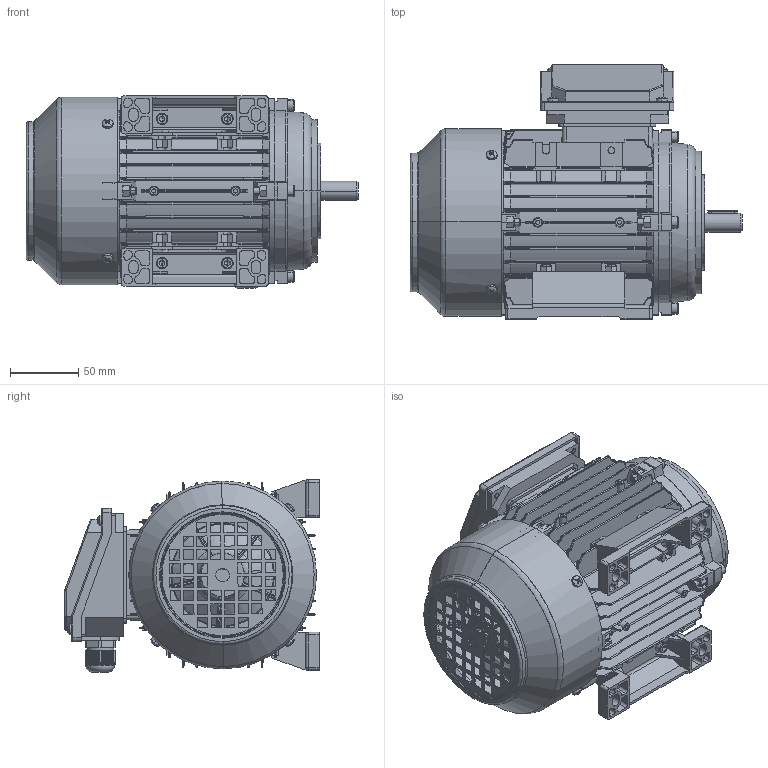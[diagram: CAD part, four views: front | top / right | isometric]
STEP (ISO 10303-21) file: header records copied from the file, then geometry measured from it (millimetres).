
FILE_DESCRIPTION (( 'STEP AP214' ), '1' );
FILE_NAME ('BMT1018.07B634.11.step', '2020-04-23T20:38:44', ( '' ), ( '' ), 'SwSTEP 2.0', 'SolidWorks 2019', '' );
FILE_SCHEMA (( 'AUTOMOTIVE_DESIGN' ));
Length unit declared in the file: millimetre
Products named in the file (1): BMT1018.07B634.11
Bounding box: 244 x 187 x 141.5 mm (x, y, z)
Volume: 636429.7 mm3; surface area: 511941.8 mm2
Topology: 44 solids, 44 shells, 4438 faces, 11641 edges, 7300 vertices
Faces by surface type: plane 2135, cylinder 1188, bspline 548, cone 377, torus 154, sphere 36
Entity records: 163916 total; most frequent: CARTESIAN_POINT 59066, ORIENTED_EDGE 23114, DIRECTION 20094, EDGE_CURVE 11557, VERTEX_POINT 7300, AXIS2_PLACEMENT_3D 7107, VECTOR 5880, LINE 5880
